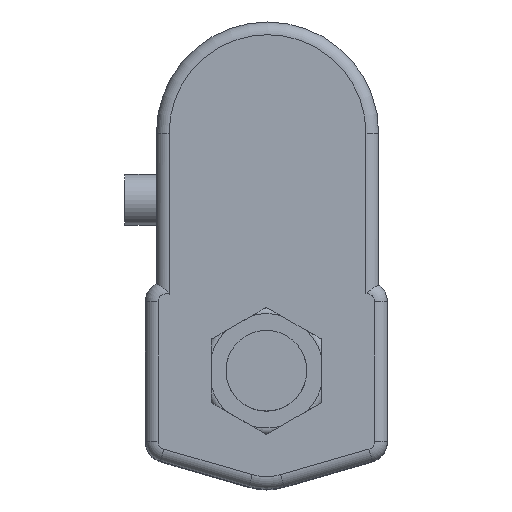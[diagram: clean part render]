
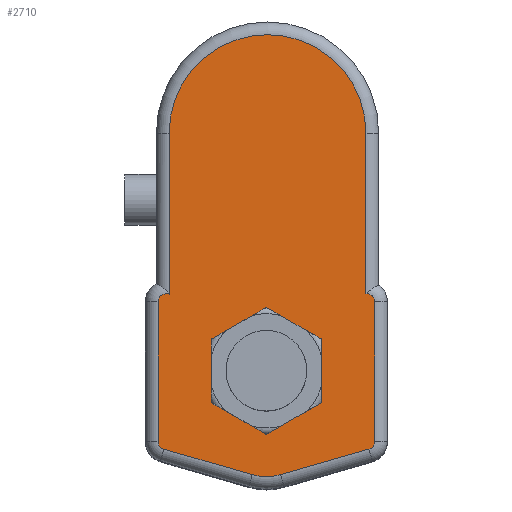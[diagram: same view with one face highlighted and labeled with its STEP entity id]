
A CAD part, top view. The second image highlights one B-rep face of the part: STEP entity #2710.
In plain terms, the highlighted planar face has unit normal (0, 0, 1).
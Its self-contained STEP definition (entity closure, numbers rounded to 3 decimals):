
#3 = ORIENTED_EDGE ( 'NONE', *, *, #1624, .F. ) ;
#9 = ORIENTED_EDGE ( 'NONE', *, *, #1686, .F. ) ;
#16 = ORIENTED_EDGE ( 'NONE', *, *, #1646, .T. ) ;
#17 = ORIENTED_EDGE ( 'NONE', *, *, #1684, .T. ) ;
#19 = ORIENTED_EDGE ( 'NONE', *, *, #1618, .T. ) ;
#21 = ORIENTED_EDGE ( 'NONE', *, *, #1647, .T. ) ;
#22 = ORIENTED_EDGE ( 'NONE', *, *, #1630, .F. ) ;
#23 = ORIENTED_EDGE ( 'NONE', *, *, #1692, .F. ) ;
#25 = ORIENTED_EDGE ( 'NONE', *, *, #1635, .F. ) ;
#886 = CARTESIAN_POINT ( 'NONE',  ( 31.6, 21.81, 127.9 ) ) ;
#893 = PLANE ( 'NONE',  #2002 ) ;
#894 = DIRECTION ( 'NONE',  ( 0., 0., 1. ) ) ;
#895 = DIRECTION ( 'NONE',  ( 1., 0., 0. ) ) ;
#896 = CARTESIAN_POINT ( 'NONE',  ( 31.376, 74.902, 127.9 ) ) ;
#904 = CARTESIAN_POINT ( 'NONE',  ( -17.321, -10., 127.9 ) ) ;
#927 = CARTESIAN_POINT ( 'NONE',  ( 0., -20., 127.9 ) ) ;
#930 = CARTESIAN_POINT ( 'NONE',  ( 0., 20., 127.9 ) ) ;
#940 = CARTESIAN_POINT ( 'NONE',  ( 34.1, -22.211, 127.9 ) ) ;
#941 = CARTESIAN_POINT ( 'NONE',  ( 34.1, 21.81, 127.9 ) ) ;
#947 = CARTESIAN_POINT ( 'NONE',  ( 17.321, -10., 127.9 ) ) ;
#951 = CARTESIAN_POINT ( 'NONE',  ( 17.321, 10., 127.9 ) ) ;
#952 = CARTESIAN_POINT ( 'NONE',  ( -34.1, -22.211, 127.9 ) ) ;
#958 = CARTESIAN_POINT ( 'NONE',  ( -34.1, 21.81, 127.9 ) ) ;
#966 = CARTESIAN_POINT ( 'NONE',  ( -4.438, -32.655, 127.9 ) ) ;
#967 = CARTESIAN_POINT ( 'NONE',  ( 32.293, -24.613, 127.9 ) ) ;
#969 = CARTESIAN_POINT ( 'NONE',  ( -30.624, 74.902, 127.9 ) ) ;
#977 = CARTESIAN_POINT ( 'NONE',  ( -30.624, 24.111, 127.9 ) ) ;
#994 = CARTESIAN_POINT ( 'NONE',  ( -32.293, -24.613, 127.9 ) ) ;
#995 = CARTESIAN_POINT ( 'NONE',  ( -17.321, 10., 127.9 ) ) ;
#997 = CARTESIAN_POINT ( 'NONE',  ( 31.376, 24.299, 127.9 ) ) ;
#998 = CARTESIAN_POINT ( 'NONE',  ( 4.438, -32.655, 127.9 ) ) ;
#1606 = EDGE_CURVE ( 'NONE', #4101, #4105, #3182, .T. ) ;
#1618 = EDGE_CURVE ( 'NONE', #4149, #4121, #3213, .T. ) ;
#1623 = EDGE_CURVE ( 'NONE', #4094, #4095, #3220, .T. ) ;
#1624 = EDGE_CURVE ( 'NONE', #4105, #4084, #3230, .T. ) ;
#1630 = EDGE_CURVE ( 'NONE', #4084, #4150, #3239, .T. ) ;
#1635 = EDGE_CURVE ( 'NONE', #4051, #4079, #3246, .T. ) ;
#1646 = EDGE_CURVE ( 'NONE', #4152, #4046, #3260, .T. ) ;
#1647 = EDGE_CURVE ( 'NONE', #4095, #4152, #3263, .T. ) ;
#1652 = EDGE_CURVE ( 'NONE', #4046, #4124, #3271, .T. ) ;
#1655 = EDGE_CURVE ( 'NONE', #4132, #4113, #3275, .T. ) ;
#1664 = EDGE_CURVE ( 'NONE', #4124, #4132, #3283, .T. ) ;
#1680 = EDGE_CURVE ( 'NONE', #4153, #4122, #3304, .T. ) ;
#1682 = EDGE_CURVE ( 'NONE', #4106, #4149, #3311, .T. ) ;
#1683 = EDGE_CURVE ( 'NONE', #4122, #4094, #3313, .T. ) ;
#1684 = EDGE_CURVE ( 'NONE', #4121, #4153, #3315, .T. ) ;
#1686 = EDGE_CURVE ( 'NONE', #4150, #4051, #3307, .T. ) ;
#1692 = EDGE_CURVE ( 'NONE', #4079, #4101, #3310, .T. ) ;
#1693 = EDGE_CURVE ( 'NONE', #4113, #4106, #3324, .T. ) ;
#1765 = ORIENTED_EDGE ( 'NONE', *, *, #1664, .T. ) ;
#1766 = ORIENTED_EDGE ( 'NONE', *, *, #1680, .T. ) ;
#1789 = ORIENTED_EDGE ( 'NONE', *, *, #1682, .T. ) ;
#1794 = ORIENTED_EDGE ( 'NONE', *, *, #1652, .T. ) ;
#1795 = ORIENTED_EDGE ( 'NONE', *, *, #1606, .F. ) ;
#1823 = EDGE_LOOP ( 'NONE', ( #2080, #2081, #1789, #19, #17, #1766, #1826, #1830, #21, #16, #1794, #1765 ) ) ;
#1826 = ORIENTED_EDGE ( 'NONE', *, *, #1683, .T. ) ;
#1830 = ORIENTED_EDGE ( 'NONE', *, *, #1623, .T. ) ;
#1836 = EDGE_LOOP ( 'NONE', ( #1795, #23, #25, #9, #22, #3 ) ) ;
#2002 = AXIS2_PLACEMENT_3D ( 'NONE', #886, #894, #895 ) ;
#2080 = ORIENTED_EDGE ( 'NONE', *, *, #1655, .T. ) ;
#2081 = ORIENTED_EDGE ( 'NONE', *, *, #1693, .T. ) ;
#2255 = FACE_BOUND ( 'NONE', #1836, .T. ) ;
#2259 = FACE_OUTER_BOUND ( 'NONE', #1823, .T. ) ;
#2354 = AXIS2_PLACEMENT_3D ( 'NONE', #3746, #3749, #3750 ) ;
#2358 = AXIS2_PLACEMENT_3D ( 'NONE', #3760, #3762, #3763 ) ;
#2359 = AXIS2_PLACEMENT_3D ( 'NONE', #3761, #3769, #3770 ) ;
#2362 = AXIS2_PLACEMENT_3D ( 'NONE', #3887, #3893, #3894 ) ;
#2366 = AXIS2_PLACEMENT_3D ( 'NONE', #3855, #3891, #3892 ) ;
#2369 = AXIS2_PLACEMENT_3D ( 'NONE', #3867, #3888, #3889 ) ;
#2710 = ADVANCED_FACE ( 'NONE', ( #2259, #2255 ), #893, .T. ) ;
#3182 = LINE ( 'NONE', #3492, #3200 ) ;
#3200 = VECTOR ( 'NONE', #3509, 1000. ) ;
#3213 = LINE ( 'NONE', #3621, #3222 ) ;
#3220 = LINE ( 'NONE', #3646, #3229 ) ;
#3222 = VECTOR ( 'NONE', #3622, 1000. ) ;
#3229 = VECTOR ( 'NONE', #3647, 1000. ) ;
#3230 = LINE ( 'NONE', #3648, #3231 ) ;
#3231 = VECTOR ( 'NONE', #3649, 1000. ) ;
#3239 = LINE ( 'NONE', #3656, #3241 ) ;
#3241 = VECTOR ( 'NONE', #3664, 1000. ) ;
#3246 = LINE ( 'NONE', #3690, #3247 ) ;
#3247 = VECTOR ( 'NONE', #3691, 1000. ) ;
#3252 = VECTOR ( 'NONE', #3747, 1000. ) ;
#3260 = LINE ( 'NONE', #3740, #3252 ) ;
#3263 = CIRCLE ( 'NONE', #2354, 2.5 ) ;
#3271 = CIRCLE ( 'NONE', #2358, 31. ) ;
#3275 = CIRCLE ( 'NONE', #2359, 2.5 ) ;
#3279 = VECTOR ( 'NONE', #3793, 1000. ) ;
#3283 = LINE ( 'NONE', #3792, #3279 ) ;
#3304 = LINE ( 'NONE', #3883, #3305 ) ;
#3305 = VECTOR ( 'NONE', #3884, 1000. ) ;
#3307 = LINE ( 'NONE', #3898, #3314 ) ;
#3310 = LINE ( 'NONE', #4013, #3321 ) ;
#3311 = CIRCLE ( 'NONE', #2369, 2.5 ) ;
#3313 = CIRCLE ( 'NONE', #2366, 2.5 ) ;
#3314 = VECTOR ( 'NONE', #3899, 1000. ) ;
#3315 = CIRCLE ( 'NONE', #2362, 16. ) ;
#3321 = VECTOR ( 'NONE', #4014, 1000. ) ;
#3324 = LINE ( 'NONE', #4015, #3325 ) ;
#3325 = VECTOR ( 'NONE', #4016, 1000. ) ;
#3492 = CARTESIAN_POINT ( 'NONE',  ( 17.321, -10., 127.9 ) ) ;
#3509 = DIRECTION ( 'NONE',  ( 0., 1., 0. ) ) ;
#3621 = CARTESIAN_POINT ( 'NONE',  ( 14.312, -38.069, 127.9 ) ) ;
#3622 = DIRECTION ( 'NONE',  ( 0.961, -0.277, 0. ) ) ;
#3646 = CARTESIAN_POINT ( 'NONE',  ( 34.1, 21.81, 127.9 ) ) ;
#3647 = DIRECTION ( 'NONE',  ( 0., 1., 0. ) ) ;
#3648 = CARTESIAN_POINT ( 'NONE',  ( 17.321, 10., 127.9 ) ) ;
#3649 = DIRECTION ( 'NONE',  ( -0.866, 0.5, 0. ) ) ;
#3656 = CARTESIAN_POINT ( 'NONE',  ( 0., 20., 127.9 ) ) ;
#3664 = DIRECTION ( 'NONE',  ( -0.866, -0.5, 0. ) ) ;
#3690 = CARTESIAN_POINT ( 'NONE',  ( -17.321, -10., 127.9 ) ) ;
#3691 = DIRECTION ( 'NONE',  ( 0.866, -0.5, 0. ) ) ;
#3740 = CARTESIAN_POINT ( 'NONE',  ( 31.376, 21.81, 127.9 ) ) ;
#3746 = CARTESIAN_POINT ( 'NONE',  ( 31.6, 21.81, 127.9 ) ) ;
#3747 = DIRECTION ( 'NONE',  ( 0., 1., 0. ) ) ;
#3749 = DIRECTION ( 'NONE',  ( 0., 0., 1. ) ) ;
#3750 = DIRECTION ( 'NONE',  ( 1., 0., 0. ) ) ;
#3760 = CARTESIAN_POINT ( 'NONE',  ( 0.376, 74.902, 127.9 ) ) ;
#3761 = CARTESIAN_POINT ( 'NONE',  ( -31.6, 21.81, 127.9 ) ) ;
#3762 = DIRECTION ( 'NONE',  ( 0., 0., 1. ) ) ;
#3763 = DIRECTION ( 'NONE',  ( 1., 0., 0. ) ) ;
#3769 = DIRECTION ( 'NONE',  ( 0., 0., 1. ) ) ;
#3770 = DIRECTION ( 'NONE',  ( 1., 0., 0. ) ) ;
#3792 = CARTESIAN_POINT ( 'NONE',  ( -30.624, 21.81, 127.9 ) ) ;
#3793 = DIRECTION ( 'NONE',  ( 0., -1., 0. ) ) ;
#3855 = CARTESIAN_POINT ( 'NONE',  ( 31.6, -22.211, 127.9 ) ) ;
#3867 = CARTESIAN_POINT ( 'NONE',  ( -31.6, -22.211, 127.9 ) ) ;
#3883 = CARTESIAN_POINT ( 'NONE',  ( 44.025, -21.226, 127.9 ) ) ;
#3884 = DIRECTION ( 'NONE',  ( 0.961, 0.277, 0. ) ) ;
#3887 = CARTESIAN_POINT ( 'NONE',  ( 0., -17.283, 127.9 ) ) ;
#3888 = DIRECTION ( 'NONE',  ( 0., 0., 1. ) ) ;
#3889 = DIRECTION ( 'NONE',  ( 1., 0., 0. ) ) ;
#3891 = DIRECTION ( 'NONE',  ( 0., 0., 1. ) ) ;
#3892 = DIRECTION ( 'NONE',  ( 1., 0., 0. ) ) ;
#3893 = DIRECTION ( 'NONE',  ( 0., 0., 1. ) ) ;
#3894 = DIRECTION ( 'NONE',  ( 1., 0., 0. ) ) ;
#3898 = CARTESIAN_POINT ( 'NONE',  ( -17.321, 10., 127.9 ) ) ;
#3899 = DIRECTION ( 'NONE',  ( 0., -1., 0. ) ) ;
#4013 = CARTESIAN_POINT ( 'NONE',  ( 0., -20., 127.9 ) ) ;
#4014 = DIRECTION ( 'NONE',  ( 0.866, 0.5, 0. ) ) ;
#4015 = CARTESIAN_POINT ( 'NONE',  ( -34.1, 21.81, 127.9 ) ) ;
#4016 = DIRECTION ( 'NONE',  ( 0., -1., 0. ) ) ;
#4046 = VERTEX_POINT ( 'NONE', #896 ) ;
#4051 = VERTEX_POINT ( 'NONE', #904 ) ;
#4079 = VERTEX_POINT ( 'NONE', #927 ) ;
#4084 = VERTEX_POINT ( 'NONE', #930 ) ;
#4094 = VERTEX_POINT ( 'NONE', #940 ) ;
#4095 = VERTEX_POINT ( 'NONE', #941 ) ;
#4101 = VERTEX_POINT ( 'NONE', #947 ) ;
#4105 = VERTEX_POINT ( 'NONE', #951 ) ;
#4106 = VERTEX_POINT ( 'NONE', #952 ) ;
#4113 = VERTEX_POINT ( 'NONE', #958 ) ;
#4121 = VERTEX_POINT ( 'NONE', #966 ) ;
#4122 = VERTEX_POINT ( 'NONE', #967 ) ;
#4124 = VERTEX_POINT ( 'NONE', #969 ) ;
#4132 = VERTEX_POINT ( 'NONE', #977 ) ;
#4149 = VERTEX_POINT ( 'NONE', #994 ) ;
#4150 = VERTEX_POINT ( 'NONE', #995 ) ;
#4152 = VERTEX_POINT ( 'NONE', #997 ) ;
#4153 = VERTEX_POINT ( 'NONE', #998 ) ;
